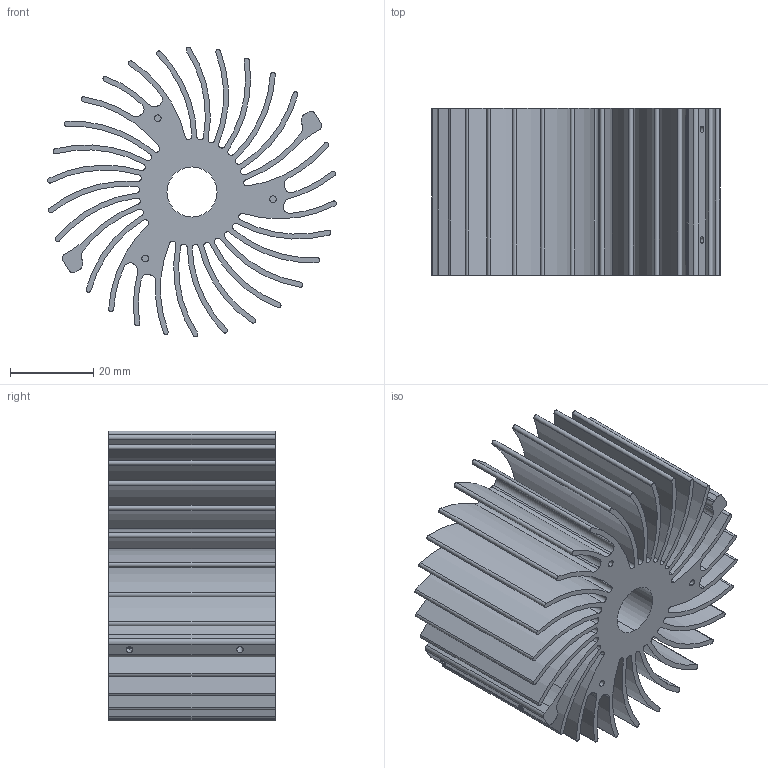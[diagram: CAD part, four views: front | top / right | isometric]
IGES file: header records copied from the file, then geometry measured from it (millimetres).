
Start section:  PTC IGES file: x00734-revb.igs
Global section: file name: x00734-revb.igs; native system: Pro/ENGINEER by Parametric Technology Corporation; preprocessor: 2010230; author: Jonah; organization: Unknown; date: 20120604.152848; units: millimetre
Bounding box: 69.31 x 40 x 69.51 mm (x, y, z)
Volume: 56176.2 mm3; surface area: 59031.1 mm2
Topology: 1 solids, 1 shells, 203 faces, 594 edges, 396 vertices
Faces by surface type: revolution 178, bspline 25
